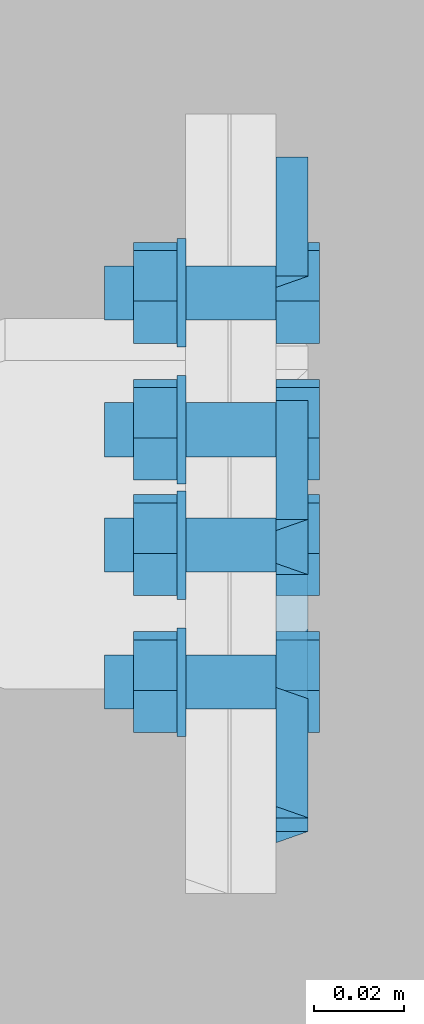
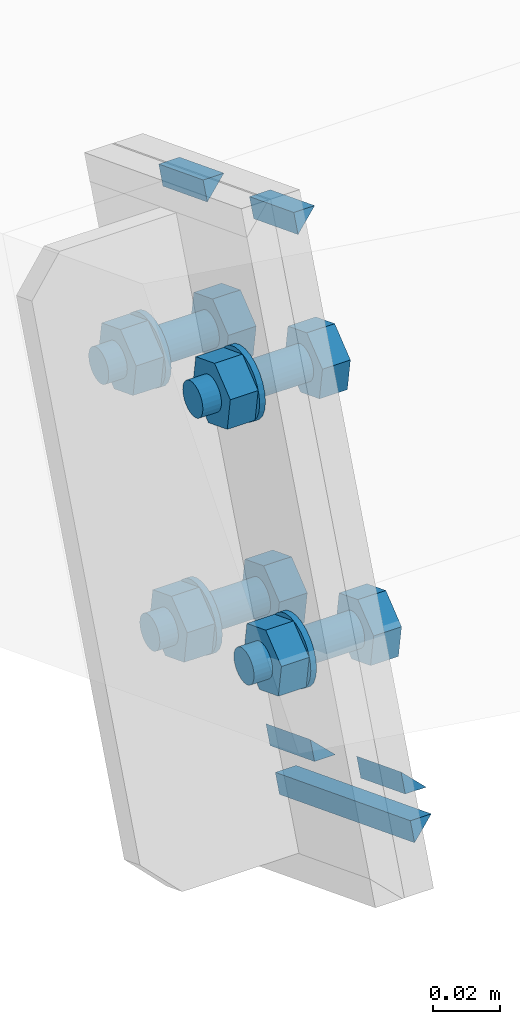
# One storey, part 24 of 72: 16 mechanical fasteners, 10 fasteners.
"""IFC4 building model written with IfcOpenShell, lengths in metres."""

from ifc_helpers import new_model, si_unit, frame, origin_with_axes, place, context, project, spatial, polyline, outline, extrude, type_object, element, save


model = new_model("IFC4")

# Units and contexts
model_context = context("Model", 3, precision=1e-05, world=origin_with_axes())
ifc_project = project(units=[si_unit("LENGTHUNIT", "METRE"), si_unit("AREAUNIT", "SQUARE_METRE"), si_unit("VOLUMEUNIT", "CUBIC_METRE"), si_unit("MASSUNIT", "GRAM", prefix="KILO"), si_unit("TIMEUNIT", "SECOND"), si_unit("PLANEANGLEUNIT", "RADIAN"), si_unit("SOLIDANGLEUNIT", "STERADIAN"), si_unit("THERMODYNAMICTEMPERATUREUNIT", "DEGREE_CELSIUS")], contexts=[model_context])

# Site, building, storey
placement_1 = place(None, origin_with_axes())
site = spatial("IfcSite", under=ifc_project, at=placement_1, Name="Italia", CompositionType="ELEMENT")
building = spatial("IfcBuilding", under=site, at=placement_1, Name="Uffici", CompositionType="ELEMENT")
storey = spatial("IfcBuildingStorey", under=building, at=placement_1, Name="Storey 0", CompositionType="ELEMENT", Elevation=0.0)

# Fasteners
fastener_type_1 = type_object("IfcFastenerType", Name="Collegamento -026_-027", PredefinedType="WELD")
placement_2 = place(placement_1, origin_with_axes())
fastener_1_placement = place(placement_2, origin_with_axes())
element("IfcFastener", 1, at=fastener_1_placement, inside=storey, type_object=fastener_type_1, Name="Collegamento -026_-027", context=model_context, shape_type="SweptSolid", body=[
    extrude(outline(polyline([(0.0, 0.0), (-0.00717336, 0.00695801), (0.0, 0.00695801), (0.0, 0.0)])), frame((0.07495, 1.64152, 6.58697), z_axis=(0.0, 0.932384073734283, -0.361469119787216), x_axis=(-1.0, 0.0, 0.0)), (0.0, 0.0, 1.0), 0.0283),
])
fastener_type_2 = type_object("IfcFastenerType", Name="Collegamento -026_-027", PredefinedType="WELD")
fastener_2_placement = place(placement_2, origin_with_axes())
element("IfcFastener", 2, at=fastener_2_placement, inside=storey, type_object=fastener_type_2, Name="Collegamento -026_-027", context=model_context, shape_type="SweptSolid", body=[
    extrude(outline(polyline([(0.0, 0.0), (0.00717336, -0.00695848), (0.0, -0.00695848), (0.0, 0.0)])), frame((0.07495, 1.60675, 6.41899), z_axis=(0.0, -0.932390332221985, 0.361453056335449), x_axis=(1.0, 0.0, 0.0)), (0.0, 0.0, 1.0), 0.0283),
])
fastener_type_3 = type_object("IfcFastenerType", Name="Collegamento -026_-027", PredefinedType="WELD")
fastener_3_placement = place(placement_2, origin_with_axes())
element("IfcFastener", 3, at=fastener_3_placement, inside=storey, type_object=fastener_type_3, Name="Collegamento -026_-027", context=model_context, shape_type="SweptSolid", body=[
    extrude(outline(polyline([(0.0, 0.0), (-0.00717336, 0.00695848), (0.0, 0.00695848), (0.0, 0.0)])), frame((0.07495, 1.5184, 6.42931), z_axis=(0.0, 0.932389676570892, -0.361454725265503), x_axis=(-1.0, 0.0, 0.0)), (0.0, 0.0, 1.0), 0.0861),
])
fastener_type_4 = type_object("IfcFastenerType", Name="Collegamento -026_-027", PredefinedType="WELD")
fastener_4_placement = place(placement_2, origin_with_axes())
element("IfcFastener", 4, at=fastener_4_placement, inside=storey, type_object=fastener_type_4, Name="Collegamento -026_-027", context=model_context, shape_type="SweptSolid", body=[
    extrude(outline(polyline([(0.0, 0.0), (0.00717336, -0.00695801), (0.0, -0.00695801), (0.0, 0.0)])), frame((0.07495, 1.55286, 6.43989), z_axis=(0.0, -0.932391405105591, 0.3614501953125), x_axis=(1.0, 0.0, 0.0)), (0.0, 0.0, 1.0), 0.0283002),
])
fastener_type_5 = type_object("IfcFastenerType", Name="Collegamento -026_-027", PredefinedType="WELD")
fastener_5_placement = place(placement_2, origin_with_axes())
element("IfcFastener", 5, at=fastener_5_placement, inside=storey, type_object=fastener_type_5, Name="Collegamento -026_-027", context=model_context, shape_type="SweptSolid", body=[
    extrude(outline(polyline([(0.0, 0.0), (-0.00717336, 0.00695801), (0.0, 0.00695801), (0.0, 0.0)])), frame((0.07495, 1.58762, 6.60786), z_axis=(0.0, 0.932389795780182, -0.361454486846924), x_axis=(-1.0, 0.0, 0.0)), (0.0, 0.0, 1.0), 0.0282999),
])
fastener_type_6 = type_object("IfcFastenerType", Name="Collegamento -026_-027", PredefinedType="WELD")
fastener_6_placement = place(placement_2, origin_with_axes())
element("IfcFastener", 6, at=fastener_6_placement, inside=storey, type_object=fastener_type_6, Name="Collegamento -026_-027", context=model_context, shape_type="SweptSolid", body=[
    extrude(outline(polyline([(0.0, 0.0), (-0.00717336, 0.00695801), (0.0, 0.00695801), (0.0, 0.0)])), frame((0.07495, 1.64152, 6.58697), z_axis=(0.0, 0.932384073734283, -0.361469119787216), x_axis=(-1.0, 0.0, 0.0)), (0.0, 0.0, 1.0), 0.0283),
])
fastener_type_7 = type_object("IfcFastenerType", Name="Collegamento -026_-027", PredefinedType="WELD")
fastener_7_placement = place(placement_2, origin_with_axes())
element("IfcFastener", 7, at=fastener_7_placement, inside=storey, type_object=fastener_type_7, Name="Collegamento -026_-027", context=model_context, shape_type="SweptSolid", body=[
    extrude(outline(polyline([(0.0, 0.0), (0.00717336, -0.00695848), (0.0, -0.00695848), (0.0, 0.0)])), frame((0.07495, 1.60675, 6.41899), z_axis=(0.0, -0.932390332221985, 0.361453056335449), x_axis=(1.0, 0.0, 0.0)), (0.0, 0.0, 1.0), 0.0283),
])
fastener_type_8 = type_object("IfcFastenerType", Name="Collegamento -026_-027", PredefinedType="WELD")
fastener_8_placement = place(placement_2, origin_with_axes())
element("IfcFastener", 8, at=fastener_8_placement, inside=storey, type_object=fastener_type_8, Name="Collegamento -026_-027", context=model_context, shape_type="SweptSolid", body=[
    extrude(outline(polyline([(0.0, 0.0), (-0.00717336, 0.00695848), (0.0, 0.00695848), (0.0, 0.0)])), frame((0.07495, 1.5184, 6.42931), z_axis=(0.0, 0.932389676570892, -0.361454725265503), x_axis=(-1.0, 0.0, 0.0)), (0.0, 0.0, 1.0), 0.0861),
])
fastener_type_9 = type_object("IfcFastenerType", Name="Collegamento -026_-027", PredefinedType="WELD")
fastener_9_placement = place(placement_2, origin_with_axes())
element("IfcFastener", 9, at=fastener_9_placement, inside=storey, type_object=fastener_type_9, Name="Collegamento -026_-027", context=model_context, shape_type="SweptSolid", body=[
    extrude(outline(polyline([(0.0, 0.0), (0.00717336, -0.00695801), (0.0, -0.00695801), (0.0, 0.0)])), frame((0.07495, 1.55286, 6.43989), z_axis=(0.0, -0.932391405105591, 0.3614501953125), x_axis=(1.0, 0.0, 0.0)), (0.0, 0.0, 1.0), 0.0283002),
])
fastener_type_10 = type_object("IfcFastenerType", Name="Collegamento -026_-027", PredefinedType="WELD")
fastener_10_placement = place(placement_2, origin_with_axes())
element("IfcFastener", 10, at=fastener_10_placement, inside=storey, type_object=fastener_type_10, Name="Collegamento -026_-027", context=model_context, shape_type="SweptSolid", body=[
    extrude(outline(polyline([(0.0, 0.0), (-0.00717336, 0.00695801), (0.0, 0.00695801), (0.0, 0.0)])), frame((0.07495, 1.58762, 6.60786), z_axis=(0.0, 0.932389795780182, -0.361454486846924), x_axis=(-1.0, 0.0, 0.0)), (0.0, 0.0, 1.0), 0.0282999),
])

# Mechanical fasteners
mechanical_fastener_type_1 = type_object("IfcMechanicalFastenerType", Name="Collegamento -026_-027", PredefinedType="BOLT")
mechanical_fastener_1_placement = place(placement_2, origin_with_axes())
element("IfcMechanicalFastener", 11, at=mechanical_fastener_1_placement, inside=storey, type_object=mechanical_fastener_type_1, Name="Collegamento -026_-027", NominalDiameter=0.0119999, context=model_context, shape_type="SweptSolid", body=[
    extrude(outline(polyline([(0.0, 0.0), (-0.0111886, 0.00433779), (-0.0130266, 0.0161963), (-0.00367582, 0.0237169), (0.00751281, 0.0193796), (0.00935066, 0.00752115), (0.0, 0.0)])), frame((0.075, 1.55587, 6.47325), z_axis=(1.0, 0.0, 0.0), x_axis=(0.0, 1.0, 0.0)), (0.0, 0.0, 1.0), 0.0096),
])
mechanical_fastener_type_2 = type_object("IfcMechanicalFastenerType", Name="Collegamento -026_-027", PredefinedType="BOLT")
mechanical_fastener_2_placement = place(placement_2, origin_with_axes())
element("IfcMechanicalFastener", 12, at=mechanical_fastener_2_placement, inside=storey, type_object=mechanical_fastener_type_2, Name="Collegamento -026_-027", NominalDiameter=0.012, context=model_context, shape_type="SweptSolid", body=[
    extrude(outline(polyline([(0.0, 0.0), (-0.000204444, -0.00155306), (-0.000803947, -0.00299978), (-0.00175738, -0.00424242), (-0.00300002, -0.00519609), (-0.0044471, -0.00579548), (-0.00600004, -0.00600004), (-0.00755298, -0.00579548), (-0.00900006, -0.00519609), (-0.0102427, -0.00424242), (-0.0111961, -0.00299978), (-0.0117956, -0.00155306), (-0.0120001, 0.0), (-0.0117956, 0.00155306), (-0.0111961, 0.00299978), (-0.0102427, 0.00424242), (-0.00900006, 0.00519609), (-0.00755298, 0.00579548), (-0.00600004, 0.00600004), (-0.0044471, 0.00579548), (-0.00300002, 0.00519609), (-0.00175738, 0.00424242), (-0.000803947, 0.00299978), (-0.000204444, 0.00155306), (0.0, 0.0)])), frame((0.037, 1.56003, 6.48511), z_axis=(1.0, 0.0, 0.0), x_axis=(0.0, 1.0, 0.0)), (0.0, 0.0, 1.0), 0.038),
])
mechanical_fastener_type_3 = type_object("IfcMechanicalFastenerType", Name="Collegamento -026_-027", PredefinedType="BOLT")
mechanical_fastener_3_placement = place(placement_2, origin_with_axes())
element("IfcMechanicalFastener", 13, at=mechanical_fastener_3_placement, inside=storey, type_object=mechanical_fastener_type_3, Name="Collegamento -026_-027", NominalDiameter=0.0119999, context=model_context, shape_type="SweptSolid", body=[
    extrude(outline(polyline([(0.0, 0.0), (-0.0111886, 0.00433779), (-0.0130266, 0.0161963), (-0.00367582, 0.0237169), (0.00751281, 0.0193796), (0.00935066, 0.00752115), (0.0, 0.0)])), frame((0.0434, 1.55587, 6.47325), z_axis=(1.0, 0.0, 0.0), x_axis=(0.0, 1.0, 0.0)), (0.0, 0.0, 1.0), 0.0096),
])
mechanical_fastener_type_4 = type_object("IfcMechanicalFastenerType", Name="Collegamento -026_-027", PredefinedType="BOLT")
mechanical_fastener_4_placement = place(placement_2, origin_with_axes())
element("IfcMechanicalFastener", 14, at=mechanical_fastener_4_placement, inside=storey, type_object=mechanical_fastener_type_4, Name="Collegamento -026_-027", NominalDiameter=0.024, context=model_context, shape_type="SweptSolid", body=[
    extrude(outline(polyline([(0.0, 0.0), (-0.000408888, -0.00310564), (-0.00160766, -0.00600004), (-0.00351465, -0.00848532), (-0.00599992, -0.0103922), (-0.00889409, -0.011591), (-0.012, -0.0120001), (-0.0151058, -0.011591), (-0.018, -0.0103922), (-0.0204853, -0.00848532), (-0.0223923, -0.00600004), (-0.023591, -0.00310564), (-0.0239999, 0.0), (-0.023591, 0.00310564), (-0.0223923, 0.00600004), (-0.0204853, 0.00848532), (-0.018, 0.0103922), (-0.0151058, 0.011591), (-0.012, 0.0120001), (-0.00889409, 0.011591), (-0.00599992, 0.0103922), (-0.00351465, 0.00848532), (-0.00160766, 0.00600004), (-0.000408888, 0.00310564), (0.0, 0.0)])), frame((0.053, 1.56603, 6.48511), z_axis=(1.0, 0.0, 0.0), x_axis=(0.0, 1.0, 0.0)), (0.0, 0.0, 1.0), 0.002),
])
mechanical_fastener_type_5 = type_object("IfcMechanicalFastenerType", Name="Collegamento -026_-027", PredefinedType="BOLT")
mechanical_fastener_5_placement = place(placement_2, origin_with_axes())
element("IfcMechanicalFastener", 15, at=mechanical_fastener_5_placement, inside=storey, type_object=mechanical_fastener_type_5, Name="Collegamento -026_-027", NominalDiameter=0.0119998, context=model_context, shape_type="SweptSolid", body=[
    extrude(outline(polyline([(0.0, 0.0), (-0.0111887, 0.00433731), (-0.0130266, 0.0161958), (-0.00367582, 0.0237169), (0.00751281, 0.0193791), (0.00935066, 0.00752068), (0.0, 0.0)])), frame((0.075, 1.61182, 6.45157), z_axis=(1.0, 0.0, 0.0), x_axis=(0.0, 1.0, 0.0)), (0.0, 0.0, 1.0), 0.0096),
])
mechanical_fastener_type_6 = type_object("IfcMechanicalFastenerType", Name="Collegamento -026_-027", PredefinedType="BOLT")
mechanical_fastener_6_placement = place(placement_2, origin_with_axes())
element("IfcMechanicalFastener", 16, at=mechanical_fastener_6_placement, inside=storey, type_object=mechanical_fastener_type_6, Name="Collegamento -026_-027", NominalDiameter=0.012, context=model_context, shape_type="SweptSolid", body=[
    extrude(outline(polyline([(0.0, 0.0), (-0.000204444, -0.00155306), (-0.000803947, -0.00299978), (-0.00175738, -0.00424242), (-0.00300002, -0.00519609), (-0.0044471, -0.00579548), (-0.00600004, -0.00600004), (-0.00755298, -0.00579548), (-0.00900006, -0.00519609), (-0.0102427, -0.00424242), (-0.0111961, -0.00299978), (-0.0117956, -0.00155306), (-0.0120001, 0.0), (-0.0117956, 0.00155306), (-0.0111961, 0.00299978), (-0.0102427, 0.00424242), (-0.00900006, 0.00519609), (-0.00755298, 0.00579548), (-0.00600004, 0.00600004), (-0.0044471, 0.00579548), (-0.00300002, 0.00519609), (-0.00175738, 0.00424242), (-0.000803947, 0.00299978), (-0.000204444, 0.00155306), (0.0, 0.0)])), frame((0.037, 1.61598, 6.46342), z_axis=(1.0, 0.0, 0.0), x_axis=(0.0, 1.0, 0.0)), (0.0, 0.0, 1.0), 0.038),
])
mechanical_fastener_type_7 = type_object("IfcMechanicalFastenerType", Name="Collegamento -026_-027", PredefinedType="BOLT")
mechanical_fastener_7_placement = place(placement_2, origin_with_axes())
element("IfcMechanicalFastener", 17, at=mechanical_fastener_7_placement, inside=storey, type_object=mechanical_fastener_type_7, Name="Collegamento -026_-027", NominalDiameter=0.0119998, context=model_context, shape_type="SweptSolid", body=[
    extrude(outline(polyline([(0.0, 0.0), (-0.0111887, 0.00433731), (-0.0130266, 0.0161958), (-0.00367582, 0.0237169), (0.00751281, 0.0193791), (0.00935066, 0.00752068), (0.0, 0.0)])), frame((0.0434, 1.61182, 6.45157), z_axis=(1.0, 0.0, 0.0), x_axis=(0.0, 1.0, 0.0)), (0.0, 0.0, 1.0), 0.0096),
])
mechanical_fastener_type_8 = type_object("IfcMechanicalFastenerType", Name="Collegamento -026_-027", PredefinedType="BOLT")
mechanical_fastener_8_placement = place(placement_2, origin_with_axes())
element("IfcMechanicalFastener", 18, at=mechanical_fastener_8_placement, inside=storey, type_object=mechanical_fastener_type_8, Name="Collegamento -026_-027", NominalDiameter=0.024, context=model_context, shape_type="SweptSolid", body=[
    extrude(outline(polyline([(0.0, 0.0), (-0.000408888, -0.00310564), (-0.00160766, -0.00600004), (-0.00351465, -0.00848532), (-0.00599992, -0.0103922), (-0.00889409, -0.011591), (-0.012, -0.0120001), (-0.0151058, -0.011591), (-0.018, -0.0103922), (-0.0204853, -0.00848532), (-0.0223923, -0.00600004), (-0.023591, -0.00310564), (-0.0239999, 0.0), (-0.023591, 0.00310564), (-0.0223923, 0.00600004), (-0.0204853, 0.00848532), (-0.018, 0.0103922), (-0.0151058, 0.011591), (-0.012, 0.0120001), (-0.00889409, 0.011591), (-0.00599992, 0.0103922), (-0.00351465, 0.00848532), (-0.00160766, 0.00600004), (-0.000408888, 0.00310564), (0.0, 0.0)])), frame((0.053, 1.62198, 6.46342), z_axis=(1.0, 0.0, 0.0), x_axis=(0.0, 1.0, 0.0)), (0.0, 0.0, 1.0), 0.002),
])
mechanical_fastener_type_9 = type_object("IfcMechanicalFastenerType", Name="Collegamento -026_-027", PredefinedType="BOLT")
mechanical_fastener_9_placement = place(placement_2, origin_with_axes())
element("IfcMechanicalFastener", 19, at=mechanical_fastener_9_placement, inside=storey, type_object=mechanical_fastener_type_9, Name="Collegamento -026_-027", NominalDiameter=0.0119998, context=model_context, shape_type="SweptSolid", body=[
    extrude(outline(polyline([(0.0, 0.0), (-0.0111886, 0.00433779), (-0.0130265, 0.0161963), (-0.00367582, 0.0237169), (0.00751293, 0.0193796), (0.00935078, 0.00752115), (0.0, 0.0)])), frame((0.075, 1.58623, 6.55157), z_axis=(1.0, 0.0, 0.0), x_axis=(0.0, 1.0, 0.0)), (0.0, 0.0, 1.0), 0.0096),
])
mechanical_fastener_type_10 = type_object("IfcMechanicalFastenerType", Name="Collegamento -026_-027", PredefinedType="BOLT")
mechanical_fastener_10_placement = place(placement_2, origin_with_axes())
element("IfcMechanicalFastener", 20, at=mechanical_fastener_10_placement, inside=storey, type_object=mechanical_fastener_type_10, Name="Collegamento -026_-027", NominalDiameter=0.012, context=model_context, shape_type="SweptSolid", body=[
    extrude(outline(polyline([(0.0, 0.0), (-0.000204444, -0.00155306), (-0.000803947, -0.00299978), (-0.00175738, -0.00424242), (-0.00300002, -0.00519609), (-0.0044471, -0.00579548), (-0.00600004, -0.00600004), (-0.00755298, -0.00579548), (-0.00900006, -0.00519609), (-0.0102427, -0.00424242), (-0.0111961, -0.00299978), (-0.0117956, -0.00155306), (-0.0120001, 0.0), (-0.0117956, 0.00155306), (-0.0111961, 0.00299978), (-0.0102427, 0.00424242), (-0.00900006, 0.00519609), (-0.00755298, 0.00579548), (-0.00600004, 0.00600004), (-0.0044471, 0.00579548), (-0.00300002, 0.00519609), (-0.00175738, 0.00424242), (-0.000803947, 0.00299978), (-0.000204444, 0.00155306), (0.0, 0.0)])), frame((0.037, 1.5904, 6.56343), z_axis=(1.0, 0.0, 0.0), x_axis=(0.0, 1.0, 0.0)), (0.0, 0.0, 1.0), 0.038),
])
mechanical_fastener_type_11 = type_object("IfcMechanicalFastenerType", Name="Collegamento -026_-027", PredefinedType="BOLT")
mechanical_fastener_11_placement = place(placement_2, origin_with_axes())
element("IfcMechanicalFastener", 21, at=mechanical_fastener_11_placement, inside=storey, type_object=mechanical_fastener_type_11, Name="Collegamento -026_-027", NominalDiameter=0.0119998, context=model_context, shape_type="SweptSolid", body=[
    extrude(outline(polyline([(0.0, 0.0), (-0.0111886, 0.00433779), (-0.0130265, 0.0161963), (-0.00367582, 0.0237169), (0.00751293, 0.0193796), (0.00935078, 0.00752115), (0.0, 0.0)])), frame((0.0434, 1.58623, 6.55157), z_axis=(1.0, 0.0, 0.0), x_axis=(0.0, 1.0, 0.0)), (0.0, 0.0, 1.0), 0.0096),
])
mechanical_fastener_type_12 = type_object("IfcMechanicalFastenerType", Name="Collegamento -026_-027", PredefinedType="BOLT")
mechanical_fastener_12_placement = place(placement_2, origin_with_axes())
element("IfcMechanicalFastener", 22, at=mechanical_fastener_12_placement, inside=storey, type_object=mechanical_fastener_type_12, Name="Collegamento -026_-027", NominalDiameter=0.024, context=model_context, shape_type="SweptSolid", body=[
    extrude(outline(polyline([(0.0, 0.0), (-0.000408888, -0.00310564), (-0.00160766, -0.00600004), (-0.00351465, -0.00848532), (-0.00599992, -0.0103922), (-0.00889409, -0.011591), (-0.012, -0.0120001), (-0.0151058, -0.011591), (-0.018, -0.0103922), (-0.0204853, -0.00848532), (-0.0223923, -0.00600004), (-0.023591, -0.00310564), (-0.0239999, 0.0), (-0.023591, 0.00310564), (-0.0223923, 0.00600004), (-0.0204853, 0.00848532), (-0.018, 0.0103922), (-0.0151058, 0.011591), (-0.012, 0.0120001), (-0.00889409, 0.011591), (-0.00599992, 0.0103922), (-0.00351465, 0.00848532), (-0.00160766, 0.00600004), (-0.000408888, 0.00310564), (0.0, 0.0)])), frame((0.053, 1.5964, 6.56343), z_axis=(1.0, 0.0, 0.0), x_axis=(0.0, 1.0, 0.0)), (0.0, 0.0, 1.0), 0.002),
])
mechanical_fastener_type_13 = type_object("IfcMechanicalFastenerType", Name="Collegamento -026_-027", PredefinedType="BOLT")
mechanical_fastener_13_placement = place(placement_2, origin_with_axes())
element("IfcMechanicalFastener", 23, at=mechanical_fastener_13_placement, inside=storey, type_object=mechanical_fastener_type_13, Name="Collegamento -026_-027", NominalDiameter=0.0119999, context=model_context, shape_type="SweptSolid", body=[
    extrude(outline(polyline([(0.0, 0.0), (-0.0111886, 0.00433731), (-0.0130265, 0.0161958), (-0.00367582, 0.0237169), (0.00751281, 0.0193791), (0.00935078, 0.00752068), (0.0, 0.0)])), frame((0.075, 1.64218, 6.52989), z_axis=(1.0, 0.0, 0.0), x_axis=(0.0, 1.0, 0.0)), (0.0, 0.0, 1.0), 0.0096),
])
mechanical_fastener_type_14 = type_object("IfcMechanicalFastenerType", Name="Collegamento -026_-027", PredefinedType="BOLT")
mechanical_fastener_14_placement = place(placement_2, origin_with_axes())
element("IfcMechanicalFastener", 24, at=mechanical_fastener_14_placement, inside=storey, type_object=mechanical_fastener_type_14, Name="Collegamento -026_-027", NominalDiameter=0.012, context=model_context, shape_type="SweptSolid", body=[
    extrude(outline(polyline([(0.0, 0.0), (-0.000204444, -0.00155306), (-0.000803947, -0.00299978), (-0.00175738, -0.00424242), (-0.00300002, -0.00519609), (-0.0044471, -0.00579548), (-0.00600004, -0.00600004), (-0.00755298, -0.00579548), (-0.00900006, -0.00519609), (-0.0102427, -0.00424242), (-0.0111961, -0.00299978), (-0.0117956, -0.00155306), (-0.0120001, 0.0), (-0.0117956, 0.00155306), (-0.0111961, 0.00299978), (-0.0102427, 0.00424242), (-0.00900006, 0.00519609), (-0.00755298, 0.00579548), (-0.00600004, 0.00600004), (-0.0044471, 0.00579548), (-0.00300002, 0.00519609), (-0.00175738, 0.00424242), (-0.000803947, 0.00299978), (-0.000204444, 0.00155306), (0.0, 0.0)])), frame((0.037, 1.64634, 6.54174), z_axis=(1.0, 0.0, 0.0), x_axis=(0.0, 1.0, 0.0)), (0.0, 0.0, 1.0), 0.038),
])
mechanical_fastener_type_15 = type_object("IfcMechanicalFastenerType", Name="Collegamento -026_-027", PredefinedType="BOLT")
mechanical_fastener_15_placement = place(placement_2, origin_with_axes())
element("IfcMechanicalFastener", 25, at=mechanical_fastener_15_placement, inside=storey, type_object=mechanical_fastener_type_15, Name="Collegamento -026_-027", NominalDiameter=0.0119999, context=model_context, shape_type="SweptSolid", body=[
    extrude(outline(polyline([(0.0, 0.0), (-0.0111886, 0.00433731), (-0.0130265, 0.0161958), (-0.00367582, 0.0237169), (0.00751281, 0.0193791), (0.00935078, 0.00752068), (0.0, 0.0)])), frame((0.0434, 1.64218, 6.52989), z_axis=(1.0, 0.0, 0.0), x_axis=(0.0, 1.0, 0.0)), (0.0, 0.0, 1.0), 0.0096),
])
mechanical_fastener_type_16 = type_object("IfcMechanicalFastenerType", Name="Collegamento -026_-027", PredefinedType="BOLT")
mechanical_fastener_16_placement = place(placement_2, origin_with_axes())
element("IfcMechanicalFastener", 26, at=mechanical_fastener_16_placement, inside=storey, type_object=mechanical_fastener_type_16, Name="Collegamento -026_-027", NominalDiameter=0.024, context=model_context, shape_type="SweptSolid", body=[
    extrude(outline(polyline([(0.0, 0.0), (-0.000408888, -0.00310564), (-0.00160766, -0.00600004), (-0.00351465, -0.00848532), (-0.00599992, -0.0103922), (-0.00889409, -0.011591), (-0.012, -0.0120001), (-0.0151058, -0.011591), (-0.018, -0.0103922), (-0.0204853, -0.00848532), (-0.0223923, -0.00600004), (-0.023591, -0.00310564), (-0.0239999, 0.0), (-0.023591, 0.00310564), (-0.0223923, 0.00600004), (-0.0204853, 0.00848532), (-0.018, 0.0103922), (-0.0151058, 0.011591), (-0.012, 0.0120001), (-0.00889409, 0.011591), (-0.00599992, 0.0103922), (-0.00351465, 0.00848532), (-0.00160766, 0.00600004), (-0.000408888, 0.00310564), (0.0, 0.0)])), frame((0.053, 1.65234, 6.54174), z_axis=(1.0, 0.0, 0.0), x_axis=(0.0, 1.0, 0.0)), (0.0, 0.0, 1.0), 0.002),
])

save(model, "model.ifc")
